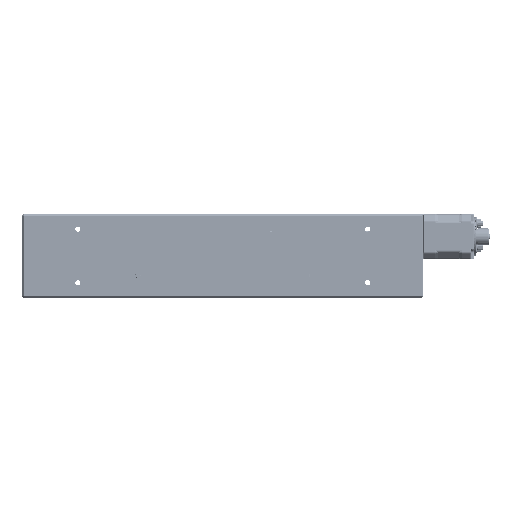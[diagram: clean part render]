
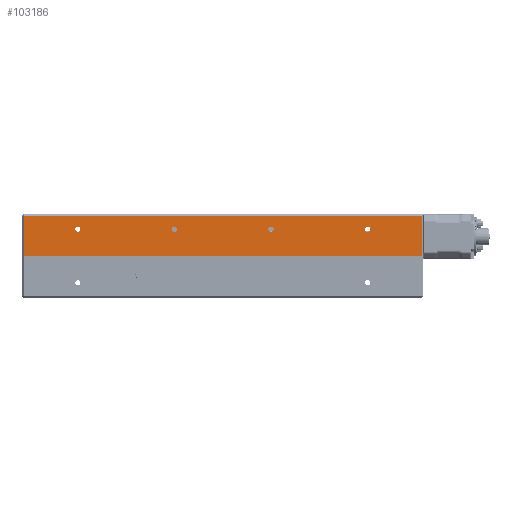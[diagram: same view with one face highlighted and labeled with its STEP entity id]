
A CAD part, left-side view. The second image highlights one B-rep face of the part: STEP entity #103186.
In plain terms, the highlighted planar face has unit normal (-1, 0, 0) as drawn and (0, 1, 0) by its records, which use the part's own axes.
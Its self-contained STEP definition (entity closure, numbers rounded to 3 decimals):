
#87801=CARTESIAN_POINT('',(-229.542,374.0,-25.0));
#87802=VERTEX_POINT('',#87801);
#87803=CARTESIAN_POINT('',(-232.,374.0,-25.0));
#87804=DIRECTION('',(0.0,-1.0,0.0));
#87805=DIRECTION('',(1.0,0.0,0.0));
#87806=AXIS2_PLACEMENT_3D('',#87803,#87804,#87805);
#87807=CIRCLE('',#87806,2.459);
#87808=EDGE_CURVE('',#87802,#87802,#87807,.T.);
#87829=CARTESIAN_POINT('',(-139.542,374.,-25.0));
#87830=VERTEX_POINT('',#87829);
#87831=CARTESIAN_POINT('',(-142.,374.,-25.0));
#87832=DIRECTION('',(0.0,-1.0,0.0));
#87833=DIRECTION('',(1.0,0.0,0.0));
#87834=AXIS2_PLACEMENT_3D('',#87831,#87832,#87833);
#87835=CIRCLE('',#87834,2.459);
#87836=EDGE_CURVE('',#87830,#87830,#87835,.T.);
#102813=CARTESIAN_POINT('',(-319.542,374.0,-25.0));
#102814=VERTEX_POINT('',#102813);
#102815=CARTESIAN_POINT('',(-322.,374.0,-25.0));
#102816=DIRECTION('',(0.0,-1.0,0.0));
#102817=DIRECTION('',(1.0,0.0,0.0));
#102818=AXIS2_PLACEMENT_3D('',#102815,#102816,#102817);
#102819=CIRCLE('',#102818,2.459);
#102820=EDGE_CURVE('',#102814,#102814,#102819,.T.);
#102841=CARTESIAN_POINT('',(-49.542,374.,-25.0));
#102842=VERTEX_POINT('',#102841);
#102843=CARTESIAN_POINT('',(-52.,374.,-25.0));
#102844=DIRECTION('',(0.0,-1.0,0.0));
#102845=DIRECTION('',(1.0,0.0,0.0));
#102846=AXIS2_PLACEMENT_3D('',#102843,#102844,#102845);
#102847=CIRCLE('',#102846,2.459);
#102848=EDGE_CURVE('',#102842,#102842,#102847,.T.);
#102977=CARTESIAN_POINT('',(-372.5,374.0,-37.5));
#102978=VERTEX_POINT('',#102977);
#103007=CARTESIAN_POINT('',(-1.5,374.,-37.5));
#103008=VERTEX_POINT('',#103007);
#103024=CARTESIAN_POINT('',(-372.5,374.0,-37.5));
#103025=DIRECTION('',(1.0,0.0,0.0));
#103026=VECTOR('',#103025,371.0);
#103027=LINE('',#103024,#103026);
#103028=EDGE_CURVE('',#102978,#103008,#103027,.T.);
#103040=CARTESIAN_POINT('',(-372.5,374.0,0.0));
#103041=VERTEX_POINT('',#103040);
#103048=CARTESIAN_POINT('',(-372.5,374.0,0.0));
#103049=DIRECTION('',(0.0,0.0,-1.0));
#103050=VECTOR('',#103049,37.5);
#103051=LINE('',#103048,#103050);
#103052=EDGE_CURVE('',#103041,#102978,#103051,.T.);
#103133=CARTESIAN_POINT('',(-1.5,374.,0.0));
#103134=VERTEX_POINT('',#103133);
#103135=CARTESIAN_POINT('',(-1.5,374.,-37.5));
#103136=DIRECTION('',(0.0,0.0,1.0));
#103137=VECTOR('',#103136,37.5);
#103138=LINE('',#103135,#103137);
#103139=EDGE_CURVE('',#103008,#103134,#103138,.T.);
#103158=CARTESIAN_POINT('',(0.,374.,0.0));
#103159=DIRECTION('',(0.0,1.0,0.0));
#103160=DIRECTION('',(0.0,0.0,1.0));
#103161=AXIS2_PLACEMENT_3D('',#103158,#103159,#103160);
#103162=PLANE('',#103161);
#103163=ORIENTED_EDGE('',*,*,#103028,.F.);
#103164=ORIENTED_EDGE('',*,*,#103052,.F.);
#103165=CARTESIAN_POINT('',(-372.5,374.0,0.0));
#103166=DIRECTION('',(1.0,0.0,0.0));
#103167=VECTOR('',#103166,371.0);
#103168=LINE('',#103165,#103167);
#103169=EDGE_CURVE('',#103041,#103134,#103168,.T.);
#103170=ORIENTED_EDGE('',*,*,#103169,.T.);
#103171=ORIENTED_EDGE('',*,*,#103139,.F.);
#103172=EDGE_LOOP('',(#103163,#103164,#103170,#103171));
#103173=FACE_OUTER_BOUND('',#103172,.T.);
#103174=ORIENTED_EDGE('',*,*,#87808,.T.);
#103175=EDGE_LOOP('',(#103174));
#103176=FACE_BOUND('',#103175,.T.);
#103177=ORIENTED_EDGE('',*,*,#87836,.T.);
#103178=EDGE_LOOP('',(#103177));
#103179=FACE_BOUND('',#103178,.T.);
#103180=ORIENTED_EDGE('',*,*,#102820,.T.);
#103181=EDGE_LOOP('',(#103180));
#103182=FACE_BOUND('',#103181,.T.);
#103183=ORIENTED_EDGE('',*,*,#102848,.T.);
#103184=EDGE_LOOP('',(#103183));
#103185=FACE_BOUND('',#103184,.T.);
#103186=ADVANCED_FACE('',(#103173,#103176,#103179,#103182,#103185),#103162,.T.);
